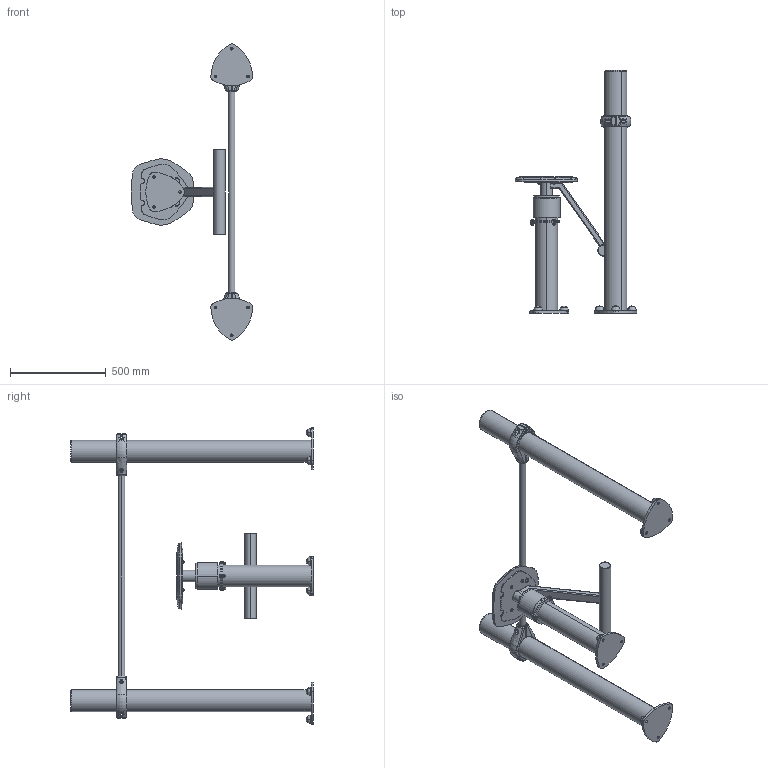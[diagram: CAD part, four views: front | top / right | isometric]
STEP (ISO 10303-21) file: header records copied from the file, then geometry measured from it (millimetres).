
FILE_DESCRIPTION (( 'STEP AP214' ), '1' );
FILE_NAME ('PMS0815 - TWISTER ASSIS PMS.STEP', '2025-05-19T07:13:42', ( '' ), ( '' ), 'SwSTEP 2.0', 'SolidWorks 2024', '' );
FILE_SCHEMA (( 'AUTOMOTIVE_DESIGN' ));
Length unit declared in the file: millimetre
Products named in the file (1): PMS0815 - TWISTER ASSIS PMS
Bounding box: 632.59 x 1265 x 1544.3 mm (x, y, z)
Surface area: 2169909.9 mm2 (no closed solid volume)
Topology: 0 solids, 91 shells, 713 faces, 2285 edges, 1581 vertices
Faces by surface type: cylinder 256, bspline 223, plane 141, torus 50, cone 25, sphere 18
Entity records: 39711 total; most frequent: CARTESIAN_POINT 22044, ORIENTED_EDGE 3478, DIRECTION 3378, EDGE_CURVE 2261, VERTEX_POINT 1581, AXIS2_PLACEMENT_3D 1413, CIRCLE 922, EDGE_LOOP 787
